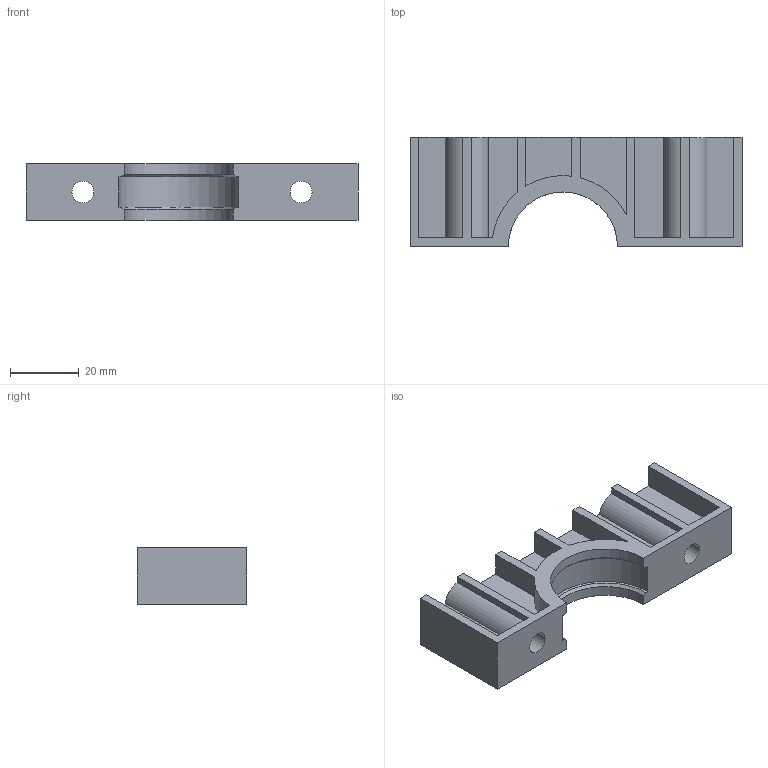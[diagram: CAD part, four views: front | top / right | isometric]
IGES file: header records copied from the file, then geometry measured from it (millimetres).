
Global section: file name: No Iges File Name specified; native system: AutoDesk Inventor R5.0; preprocessor: AutoDesk Inventor Iges Exporter R5.0; author: No Author specified; organization: No Organization specified; date: 20030119.154513; units: inch
Bounding box: 96.52 x 31.75 x 16.51 mm (x, y, z)
Volume: 19828.2 mm3; surface area: 14663.7 mm2
Topology: 1 solids, 1 shells, 76 faces, 222 edges, 148 vertices
Faces by surface type: plane 41, bspline 20, cylinder 10, revolution 5
